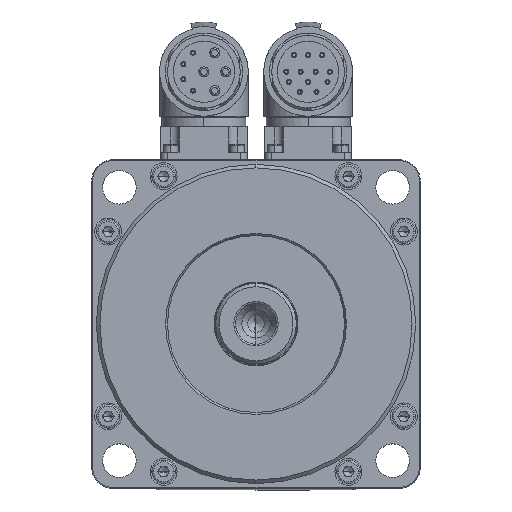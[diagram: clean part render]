
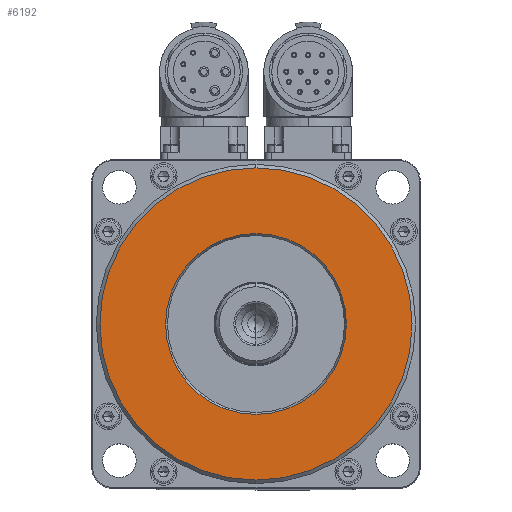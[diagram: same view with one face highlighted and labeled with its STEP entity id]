
A CAD part, top view. The second image highlights one B-rep face of the part: STEP entity #6192.
In plain terms, the highlighted planar face has unit normal (0, 0, 1).
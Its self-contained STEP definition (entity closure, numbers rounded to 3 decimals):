
#1715 = DIRECTION ( 'NONE',  ( 0., 0., -1. ) ) ;
#2559 = EDGE_CURVE ( 'NONE', #43879, #23974, #52016, .T. ) ;
#6192 = ADVANCED_FACE ( 'NONE', ( #49205, #53090 ), #56296, .F. ) ;
#9695 = CARTESIAN_POINT ( 'NONE',  ( 0., 26.908, 75.864 ) ) ;
#10403 = CARTESIAN_POINT ( 'NONE',  ( 0., 0., 75.864 ) ) ;
#11231 = AXIS2_PLACEMENT_3D ( 'NONE', #60767, #61175, #46600 ) ;
#13293 = CIRCLE ( 'NONE', #52888, 26.908 ) ;
#14370 = AXIS2_PLACEMENT_3D ( 'NONE', #10403, #49982, #20208 ) ;
#19410 = CARTESIAN_POINT ( 'NONE',  ( 0., 0., 75.864 ) ) ;
#20208 = DIRECTION ( 'NONE',  ( 0., 1., 0. ) ) ;
#20502 = EDGE_CURVE ( 'NONE', #43184, #53070, #57227, .T. ) ;
#21762 = ORIENTED_EDGE ( 'NONE', *, *, #51241, .T. ) ;
#23915 = CARTESIAN_POINT ( 'NONE',  ( 0., -26.908, 75.864 ) ) ;
#23974 = VERTEX_POINT ( 'NONE', #25667 ) ;
#25667 = CARTESIAN_POINT ( 'NONE',  ( 0., 46.433, 75.864 ) ) ;
#26069 = AXIS2_PLACEMENT_3D ( 'NONE', #29723, #45317, #35109 ) ;
#26144 = ORIENTED_EDGE ( 'NONE', *, *, #50099, .T. ) ;
#29558 = AXIS2_PLACEMENT_3D ( 'NONE', #61308, #1715, #31717 ) ;
#29723 = CARTESIAN_POINT ( 'NONE',  ( 0., 0., 75.864 ) ) ;
#30531 = CARTESIAN_POINT ( 'NONE',  ( 0., -46.433, 75.864 ) ) ;
#31717 = DIRECTION ( 'NONE',  ( 0., 1., 0. ) ) ;
#31814 = EDGE_LOOP ( 'NONE', ( #32256, #26144 ) ) ;
#32256 = ORIENTED_EDGE ( 'NONE', *, *, #20502, .T. ) ;
#32620 = CIRCLE ( 'NONE', #11231, 46.433 ) ;
#35109 = DIRECTION ( 'NONE',  ( 0., 1., 0. ) ) ;
#43150 = EDGE_LOOP ( 'NONE', ( #21762, #57348 ) ) ;
#43184 = VERTEX_POINT ( 'NONE', #23915 ) ;
#43879 = VERTEX_POINT ( 'NONE', #30531 ) ;
#44601 = DIRECTION ( 'NONE',  ( 0., 0., -1. ) ) ;
#45317 = DIRECTION ( 'NONE',  ( 0., 0., -1. ) ) ;
#46600 = DIRECTION ( 'NONE',  ( 0., 1., 0. ) ) ;
#49205 = FACE_OUTER_BOUND ( 'NONE', #43150, .T. ) ;
#49982 = DIRECTION ( 'NONE',  ( 0., 0., 1. ) ) ;
#50099 = EDGE_CURVE ( 'NONE', #53070, #43184, #13293, .T. ) ;
#51241 = EDGE_CURVE ( 'NONE', #23974, #43879, #32620, .T. ) ;
#52016 = CIRCLE ( 'NONE', #14370, 46.433 ) ;
#52888 = AXIS2_PLACEMENT_3D ( 'NONE', #19410, #44601, #54653 ) ;
#53070 = VERTEX_POINT ( 'NONE', #9695 ) ;
#53090 = FACE_BOUND ( 'NONE', #31814, .T. ) ;
#54653 = DIRECTION ( 'NONE',  ( 0., 1., 0. ) ) ;
#56296 = PLANE ( 'NONE',  #29558 ) ;
#57227 = CIRCLE ( 'NONE', #26069, 26.908 ) ;
#57348 = ORIENTED_EDGE ( 'NONE', *, *, #2559, .T. ) ;
#60767 = CARTESIAN_POINT ( 'NONE',  ( 0., 0., 75.864 ) ) ;
#61175 = DIRECTION ( 'NONE',  ( 0., 0., 1. ) ) ;
#61308 = CARTESIAN_POINT ( 'NONE',  ( 0., 0., 75.864 ) ) ;
